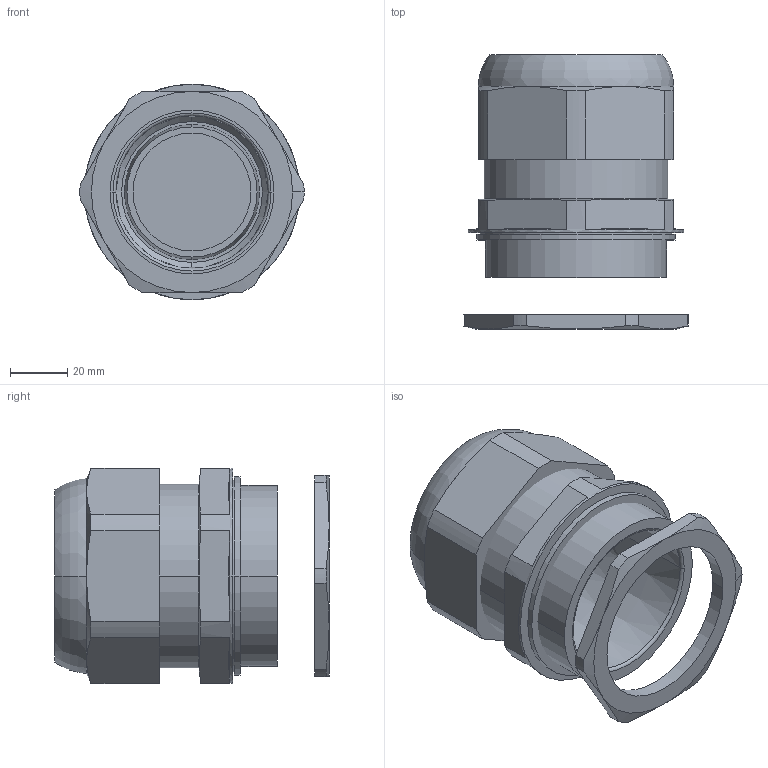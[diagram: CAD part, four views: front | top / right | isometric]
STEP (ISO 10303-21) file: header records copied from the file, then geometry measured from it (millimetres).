
FILE_DESCRIPTION (( 'STEP AP203' ), '1' );
FILE_NAME ('8161-_-M63-48_m_Mutter_m_Stopfen.STEP', '2015-04-02T07:52:21', ( '' ), ( '' ), 'SwSTEP 2.0', 'SolidWorks 2015', '' );
FILE_SCHEMA (( 'CONFIG_CONTROL_DESIGN' ));
Length unit declared in the file: millimetre
Products named in the file (1): 8161-_-M63-48_m_Mutter_m_Stopfen
Bounding box: 77.99 x 95.41 x 75 mm (x, y, z)
Volume: 140412.6 mm3; surface area: 79063 mm2
Topology: 6 solids, 6 shells, 773 faces, 2033 edges, 1259 vertices
Faces by surface type: cone 229, cylinder 197, plane 182, torus 105, bspline 60
Entity records: 24171 total; most frequent: CARTESIAN_POINT 5333, DIRECTION 4012, ORIENTED_EDGE 4006, EDGE_CURVE 2003, AXIS2_PLACEMENT_3D 1544, VERTEX_POINT 1259, LINE 924, VECTOR 924
